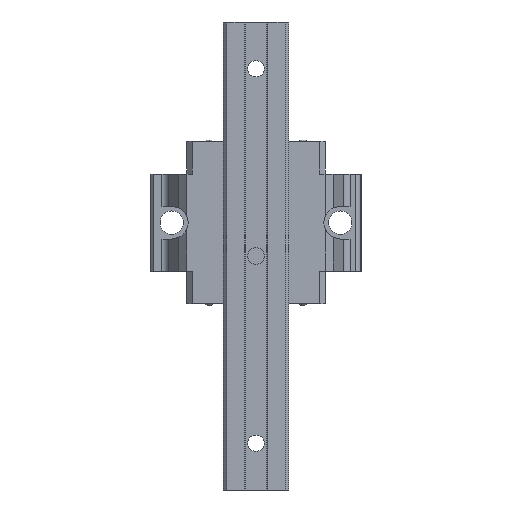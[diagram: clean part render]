
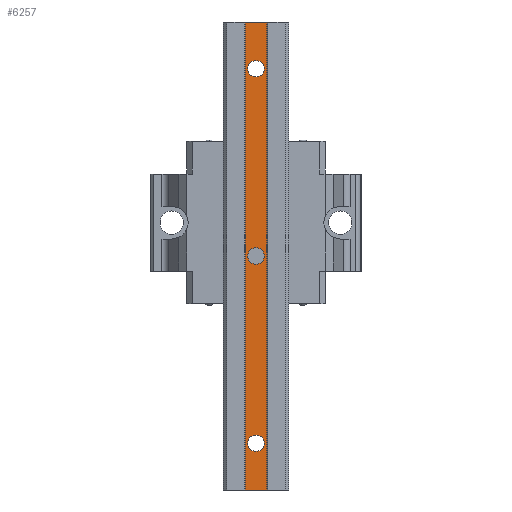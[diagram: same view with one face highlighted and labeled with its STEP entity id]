
A CAD part, front view. The second image highlights one B-rep face of the part: STEP entity #6257.
In plain terms, the highlighted planar face has unit normal (0, -1, 0).
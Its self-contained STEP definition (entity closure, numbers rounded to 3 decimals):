
#81 = ORIENTED_EDGE ( 'NONE', *, *, #607, .T. ) ;
#164 = CARTESIAN_POINT ( 'NONE',  ( 0., -22.5, -31.5 ) ) ;
#556 = DIRECTION ( 'NONE',  ( 0., 1., 0. ) ) ;
#589 = CARTESIAN_POINT ( 'NONE',  ( -4.5, -22.5, 65. ) ) ;
#607 = EDGE_CURVE ( 'NONE', #1962, #1883, #1769, .T. ) ;
#711 = CARTESIAN_POINT ( 'NONE',  ( 0., -22.5, 41.5 ) ) ;
#970 = CARTESIAN_POINT ( 'NONE',  ( 0., -22.5, -115. ) ) ;
#1025 = CARTESIAN_POINT ( 'NONE',  ( -4.5, -22.5, -100.1 ) ) ;
#1037 = ORIENTED_EDGE ( 'NONE', *, *, #13550, .T. ) ;
#1282 = DIRECTION ( 'NONE',  ( 0., 0., -1. ) ) ;
#1316 = CARTESIAN_POINT ( 'NONE',  ( 0., -22.5, -38.5 ) ) ;
#1400 = DIRECTION ( 'NONE',  ( 0., 0., 1. ) ) ;
#1696 = VERTEX_POINT ( 'NONE', #711 ) ;
#1769 = CIRCLE ( 'NONE', #5853, 3.5 ) ;
#1812 = ORIENTED_EDGE ( 'NONE', *, *, #10850, .T. ) ;
#1830 = CIRCLE ( 'NONE', #12402, 3.5 ) ;
#1883 = VERTEX_POINT ( 'NONE', #12731 ) ;
#1899 = VECTOR ( 'NONE', #1400, 1000. ) ;
#1962 = VERTEX_POINT ( 'NONE', #2760 ) ;
#2233 = DIRECTION ( 'NONE',  ( 0., 1., 0. ) ) ;
#2324 = CIRCLE ( 'NONE', #14596, 3.5 ) ;
#2657 = CARTESIAN_POINT ( 'NONE',  ( 0., -22.5, -115. ) ) ;
#2760 = CARTESIAN_POINT ( 'NONE',  ( 0., -22.5, -111.5 ) ) ;
#3020 = CARTESIAN_POINT ( 'NONE',  ( -4.5, -22.5, -135. ) ) ;
#3440 = DIRECTION ( 'NONE',  ( 0., 1., 0. ) ) ;
#3474 = FACE_BOUND ( 'NONE', #11329, .T. ) ;
#3552 = PLANE ( 'NONE',  #5617 ) ;
#3731 = VERTEX_POINT ( 'NONE', #6103 ) ;
#4267 = ORIENTED_EDGE ( 'NONE', *, *, #12926, .T. ) ;
#4407 = CARTESIAN_POINT ( 'NONE',  ( 4.5, -22.5, 65. ) ) ;
#4432 = DIRECTION ( 'NONE',  ( 0., 1., 0. ) ) ;
#4546 = CIRCLE ( 'NONE', #8344, 3.5 ) ;
#4778 = ORIENTED_EDGE ( 'NONE', *, *, #5356, .F. ) ;
#4810 = FACE_BOUND ( 'NONE', #10735, .T. ) ;
#4854 = LINE ( 'NONE', #11848, #1899 ) ;
#4893 = EDGE_CURVE ( 'NONE', #5621, #12680, #6732, .T. ) ;
#4966 = DIRECTION ( 'NONE',  ( 0., 0., 1. ) ) ;
#5044 = VERTEX_POINT ( 'NONE', #1316 ) ;
#5194 = DIRECTION ( 'NONE',  ( 1., 0., 0. ) ) ;
#5348 = EDGE_LOOP ( 'NONE', ( #1812, #1037 ) ) ;
#5356 = EDGE_CURVE ( 'NONE', #5621, #11753, #8399, .T. ) ;
#5609 = DIRECTION ( 'NONE',  ( 0., 0., -1. ) ) ;
#5617 = AXIS2_PLACEMENT_3D ( 'NONE', #8234, #7148, #1282 ) ;
#5621 = VERTEX_POINT ( 'NONE', #589 ) ;
#5853 = AXIS2_PLACEMENT_3D ( 'NONE', #970, #4432, #8970 ) ;
#5936 = ORIENTED_EDGE ( 'NONE', *, *, #4893, .T. ) ;
#6103 = CARTESIAN_POINT ( 'NONE',  ( 0., -22.5, 48.5 ) ) ;
#6127 = EDGE_LOOP ( 'NONE', ( #5936, #11588, #4267, #4778 ) ) ;
#6257 = ADVANCED_FACE ( 'NONE', ( #3474, #14057, #4810, #13838 ), #3552, .T. ) ;
#6627 = CIRCLE ( 'NONE', #14562, 3.5 ) ;
#6732 = LINE ( 'NONE', #1025, #9623 ) ;
#6917 = CARTESIAN_POINT ( 'NONE',  ( 0., -22.5, -135. ) ) ;
#7148 = DIRECTION ( 'NONE',  ( 0., -1., 0. ) ) ;
#7435 = DIRECTION ( 'NONE',  ( 0., 1., 0. ) ) ;
#7978 = ORIENTED_EDGE ( 'NONE', *, *, #12851, .T. ) ;
#8004 = DIRECTION ( 'NONE',  ( 0., 0., 1. ) ) ;
#8028 = ORIENTED_EDGE ( 'NONE', *, *, #11522, .T. ) ;
#8119 = EDGE_CURVE ( 'NONE', #3731, #1696, #13458, .T. ) ;
#8234 = CARTESIAN_POINT ( 'NONE',  ( -4.5, -22.5, -100.1 ) ) ;
#8344 = AXIS2_PLACEMENT_3D ( 'NONE', #9036, #3440, #8004 ) ;
#8399 = LINE ( 'NONE', #8471, #9714 ) ;
#8471 = CARTESIAN_POINT ( 'NONE',  ( 0., -22.5, 65. ) ) ;
#8531 = CARTESIAN_POINT ( 'NONE',  ( 0., -22.5, -35. ) ) ;
#8710 = VERTEX_POINT ( 'NONE', #11015 ) ;
#8970 = DIRECTION ( 'NONE',  ( 0., 0., 1. ) ) ;
#9036 = CARTESIAN_POINT ( 'NONE',  ( 0., -22.5, 45. ) ) ;
#9360 = DIRECTION ( 'NONE',  ( 0., 0., 1. ) ) ;
#9623 = VECTOR ( 'NONE', #5609, 1000. ) ;
#9714 = VECTOR ( 'NONE', #5194, 1000. ) ;
#10504 = DIRECTION ( 'NONE',  ( 1., 0., 0. ) ) ;
#10554 = DIRECTION ( 'NONE',  ( 0., 0., 1. ) ) ;
#10735 = EDGE_LOOP ( 'NONE', ( #81, #8028 ) ) ;
#10801 = AXIS2_PLACEMENT_3D ( 'NONE', #12570, #2233, #9360 ) ;
#10850 = EDGE_CURVE ( 'NONE', #14600, #5044, #1830, .T. ) ;
#11015 = CARTESIAN_POINT ( 'NONE',  ( 4.5, -22.5, -135. ) ) ;
#11133 = EDGE_CURVE ( 'NONE', #12680, #8710, #11714, .T. ) ;
#11263 = DIRECTION ( 'NONE',  ( 0., 0., 1. ) ) ;
#11329 = EDGE_LOOP ( 'NONE', ( #12213, #7978 ) ) ;
#11522 = EDGE_CURVE ( 'NONE', #1883, #1962, #6627, .T. ) ;
#11588 = ORIENTED_EDGE ( 'NONE', *, *, #11133, .T. ) ;
#11714 = LINE ( 'NONE', #6917, #11920 ) ;
#11753 = VERTEX_POINT ( 'NONE', #4407 ) ;
#11848 = CARTESIAN_POINT ( 'NONE',  ( 4.5, -22.5, -100.1 ) ) ;
#11920 = VECTOR ( 'NONE', #10504, 1000. ) ;
#12213 = ORIENTED_EDGE ( 'NONE', *, *, #8119, .T. ) ;
#12402 = AXIS2_PLACEMENT_3D ( 'NONE', #8531, #7435, #4966 ) ;
#12570 = CARTESIAN_POINT ( 'NONE',  ( 0., -22.5, 45. ) ) ;
#12680 = VERTEX_POINT ( 'NONE', #3020 ) ;
#12714 = CARTESIAN_POINT ( 'NONE',  ( 0., -22.5, -35. ) ) ;
#12731 = CARTESIAN_POINT ( 'NONE',  ( 0., -22.5, -118.5 ) ) ;
#12851 = EDGE_CURVE ( 'NONE', #1696, #3731, #4546, .T. ) ;
#12926 = EDGE_CURVE ( 'NONE', #8710, #11753, #4854, .T. ) ;
#13458 = CIRCLE ( 'NONE', #10801, 3.5 ) ;
#13550 = EDGE_CURVE ( 'NONE', #5044, #14600, #2324, .T. ) ;
#13738 = DIRECTION ( 'NONE',  ( 0., 1., 0. ) ) ;
#13838 = FACE_OUTER_BOUND ( 'NONE', #6127, .T. ) ;
#14057 = FACE_BOUND ( 'NONE', #5348, .T. ) ;
#14562 = AXIS2_PLACEMENT_3D ( 'NONE', #2657, #556, #10554 ) ;
#14596 = AXIS2_PLACEMENT_3D ( 'NONE', #12714, #13738, #11263 ) ;
#14600 = VERTEX_POINT ( 'NONE', #164 ) ;
